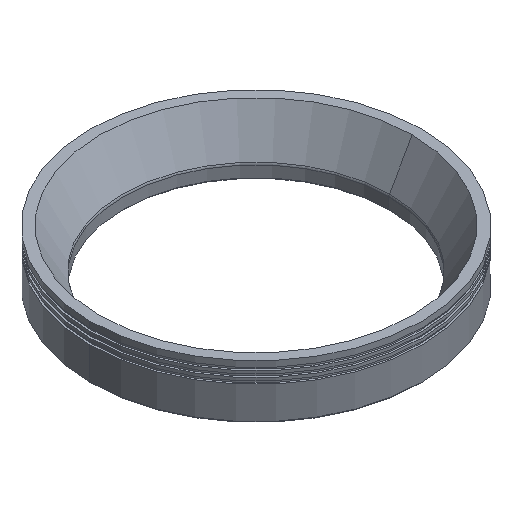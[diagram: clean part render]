
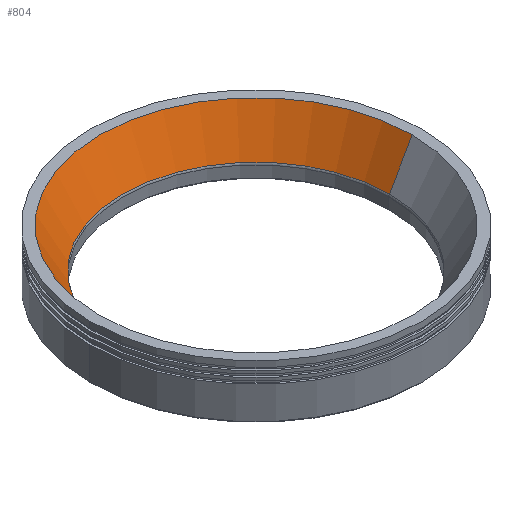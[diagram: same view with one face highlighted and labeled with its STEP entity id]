
A CAD part, isometric view. The second image highlights one B-rep face of the part: STEP entity #804.
In plain terms, the highlighted conical face has half-angle 30 degrees and reference radius 74.134 mm.
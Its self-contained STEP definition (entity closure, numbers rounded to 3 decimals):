
#112=DIRECTION('',(-0.5,0.,-0.866));
#113=VECTOR('',#112,23.464);
#114=CARTESIAN_POINT('',(80.,0.,28.));
#115=LINE('',#114,#113);
#116=CARTESIAN_POINT('',(0.,0.,7.68));
#117=DIRECTION('',(0.,0.,1.));
#118=DIRECTION('',(1.,0.,0.));
#119=AXIS2_PLACEMENT_3D('',#116,#117,#118);
#121=DIRECTION('',(0.5,0.,-0.866));
#122=VECTOR('',#121,23.464);
#123=CARTESIAN_POINT('',(-80.,0.,
28.));
#124=LINE('',#123,#122);
#140=CARTESIAN_POINT('',(0.,0.,28.));
#141=DIRECTION('',(0.,0.,-1.));
#142=DIRECTION('',(-1.,0.,0.));
#143=AXIS2_PLACEMENT_3D('',#140,#141,#142);
#519=CARTESIAN_POINT('',(80.,0.,
28.));
#520=CARTESIAN_POINT('',(-80.,0.,28.));
#521=VERTEX_POINT('',#519);
#522=VERTEX_POINT('',#520);
#527=CARTESIAN_POINT('',(-68.268,0.,
7.68));
#528=CARTESIAN_POINT('',(68.268,0.,7.68));
#529=VERTEX_POINT('',#527);
#530=VERTEX_POINT('',#528);
#792=CARTESIAN_POINT('',(0.,0.,17.84));
#793=DIRECTION('',(0.,0.,1.));
#794=DIRECTION('',(0.,-1.,0.));
#795=AXIS2_PLACEMENT_3D('',#792,#793,#794);
#796=CONICAL_SURFACE('',#795,74.134,30.);
#797=ORIENTED_EDGE('',*,*,#757,.T.);
#798=ORIENTED_EDGE('',*,*,#787,.F.);
#800=ORIENTED_EDGE('',*,*,#799,.T.);
#801=ORIENTED_EDGE('',*,*,#783,.T.);
#802=EDGE_LOOP('',(#797,#798,#800,#801));
#803=FACE_OUTER_BOUND('',#802,.F.);
#120=CIRCLE('',#119,68.268);
#144=CIRCLE('',#143,80.);
#757=EDGE_CURVE('',#530,#529,#120,.T.);
#783=EDGE_CURVE('',#521,#530,#115,.T.);
#787=EDGE_CURVE('',#522,#529,#124,.T.);
#799=EDGE_CURVE('',#522,#521,#144,.T.);
#804=ADVANCED_FACE('',(#803),#796,.F.);
